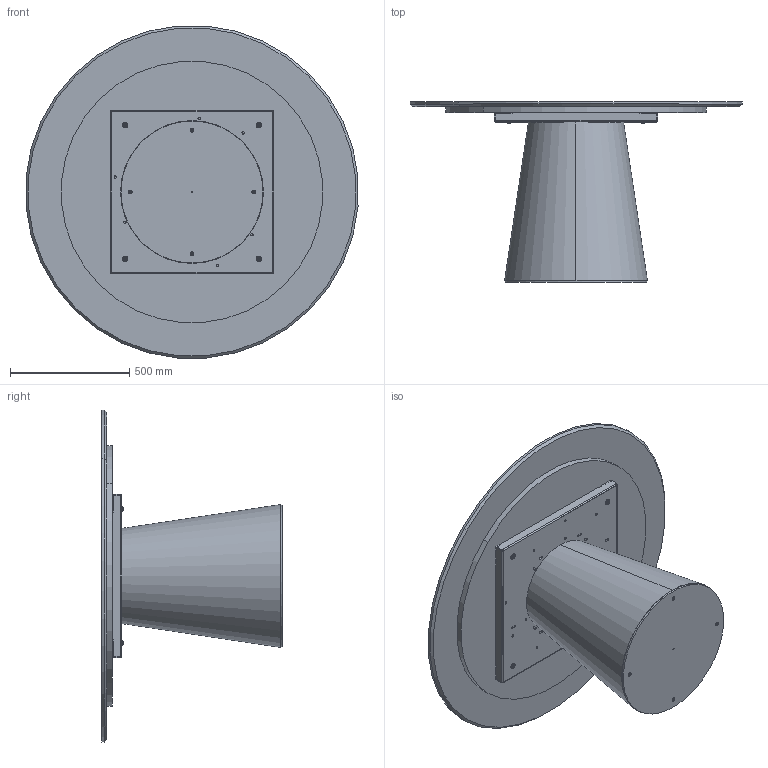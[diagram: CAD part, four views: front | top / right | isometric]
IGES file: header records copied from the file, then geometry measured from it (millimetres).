
Start section: SolidWorks IGES file using analytic representation for surfaces
Global section: file name: Y:\eforma\TECNICO\SOLIDWORKS\E-FORMA\1-TAVOLI\TEO\08 modelli 3D web\TO06M_Teo_d.140_Marble.IGS; native system: SolidWorks 2022; preprocessor: SolidWorks 2022; author: eforma.tech; date: 240802.112212; units: millimetre
Bounding box: 1394.67 x 758.19 x 1394.67 mm (x, y, z)
Volume: 84571648.9 mm3; surface area: 9555905 mm2
Topology: 21 solids, 21 shells, 818 faces, 2040 edges, 1253 vertices
Faces by surface type: revolution 446, plane 372
